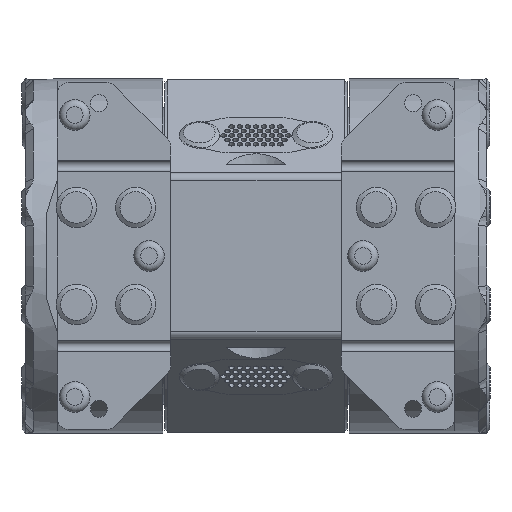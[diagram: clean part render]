
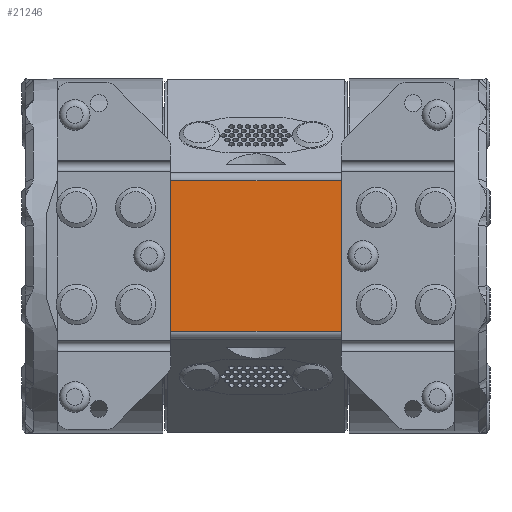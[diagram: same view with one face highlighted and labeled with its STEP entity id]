
A CAD part, front view. The second image highlights one B-rep face of the part: STEP entity #21246.
In plain terms, the highlighted planar face has unit normal (0, -1, 0).
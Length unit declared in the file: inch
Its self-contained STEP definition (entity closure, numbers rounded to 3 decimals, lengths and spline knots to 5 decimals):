
#30 = CARTESIAN_POINT ( 'NONE',  ( 0.66, -6.156, 1.748 ) ) ;
#55 = CARTESIAN_POINT ( 'NONE',  ( 1.98, -6.156, 1.748 ) ) ;
#59 = CARTESIAN_POINT ( 'NONE',  ( 0., -6.156, 1.748 ) ) ;
#114 = CARTESIAN_POINT ( 'NONE',  ( 1.32, -6.156, 1.748 ) ) ;
#2218 = EDGE_LOOP ( 'NONE', ( #28966, #29202, #28963, #3557, #28971, #29204 ) ) ;
#2964 = CARTESIAN_POINT ( 'NONE',  ( 0., -6.156, 1.748 ) ) ;
#2986 = CARTESIAN_POINT ( 'NONE',  ( -0.66, -6.156, 1.748 ) ) ;
#3005 = CARTESIAN_POINT ( 'NONE',  ( 1.98, -6.156, 2.645 ) ) ;
#3066 = CARTESIAN_POINT ( 'NONE',  ( -1.32, -6.156, 1.748 ) ) ;
#3070 = DIRECTION ( 'NONE',  ( 0., 0., 1. ) ) ;
#3140 = CARTESIAN_POINT ( 'NONE',  ( -1.98, -6.156, 1.748 ) ) ;
#3557 = ORIENTED_EDGE ( 'NONE', *, *, #19528, .T. ) ;
#5008 = VERTEX_POINT ( 'NONE', #15527 ) ;
#5024 = VERTEX_POINT ( 'NONE', #15519 ) ;
#5046 = VERTEX_POINT ( 'NONE', #15520 ) ;
#5047 = VERTEX_POINT ( 'NONE', #15404 ) ;
#5050 = VERTEX_POINT ( 'NONE', #15413 ) ;
#5053 = VERTEX_POINT ( 'NONE', #15415 ) ;
#5553 = B_SPLINE_CURVE_WITH_KNOTS ( 'NONE', 3,
 ( #59, #30, #114, #55 ),
 .UNSPECIFIED., .F., .F.,
 ( 4, 4 ),
 ( 0., 0.91328 ),
 .UNSPECIFIED. ) ;
#5557 = B_SPLINE_CURVE_WITH_KNOTS ( 'NONE', 3,
 ( #2964, #2986, #3066, #3140 ),
 .UNSPECIFIED., .F., .F.,
 ( 4, 4 ),
 ( 0., 0.91328 ),
 .UNSPECIFIED. ) ;
#5558 = B_SPLINE_CURVE_WITH_KNOTS ( 'NONE', 3,
 ( #24227, #24123, #24124, #24186 ),
 .UNSPECIFIED., .F., .F.,
 ( 4, 4 ),
 ( 0., 0.91328 ),
 .UNSPECIFIED. ) ;
#5563 = B_SPLINE_CURVE_WITH_KNOTS ( 'NONE', 3,
 ( #21635, #21740, #21738, #21736 ),
 .UNSPECIFIED., .F., .F.,
 ( 4, 4 ),
 ( 0., 0.91328 ),
 .UNSPECIFIED. ) ;
#5933 = AXIS2_PLACEMENT_3D ( 'NONE', #8660, #8661, #8662 ) ;
#8651 = PLANE ( 'NONE',  #5933 ) ;
#8660 = CARTESIAN_POINT ( 'NONE',  ( 4.605, -6.156, 1.935 ) ) ;
#8661 = DIRECTION ( 'NONE',  ( 0., 1., 0. ) ) ;
#8662 = DIRECTION ( 'NONE',  ( 0., 0., -1. ) ) ;
#12062 = CARTESIAN_POINT ( 'NONE',  ( -1.98, -6.156, -2.645 ) ) ;
#12095 = DIRECTION ( 'NONE',  ( 0., 0., -1. ) ) ;
#15404 = CARTESIAN_POINT ( 'NONE',  ( -1.98, -6.156, 1.748 ) ) ;
#15413 = CARTESIAN_POINT ( 'NONE',  ( -1.98, -6.156, -1.748 ) ) ;
#15415 = CARTESIAN_POINT ( 'NONE',  ( 0., -6.156, -1.748 ) ) ;
#15519 = CARTESIAN_POINT ( 'NONE',  ( 1.98, -6.156, -1.748 ) ) ;
#15520 = CARTESIAN_POINT ( 'NONE',  ( 0., -6.156, 1.748 ) ) ;
#15527 = CARTESIAN_POINT ( 'NONE',  ( 1.98, -6.156, 1.748 ) ) ;
#15962 = FACE_OUTER_BOUND ( 'NONE', #2218, .T. ) ;
#19334 = EDGE_CURVE ( 'NONE', #5046, #5008, #5553, .T. ) ;
#19507 = EDGE_CURVE ( 'NONE', #5046, #5047, #5557, .T. ) ;
#19509 = EDGE_CURVE ( 'NONE', #5024, #5008, #29451, .T. ) ;
#19528 = EDGE_CURVE ( 'NONE', #5053, #5024, #5558, .T. ) ;
#19731 = EDGE_CURVE ( 'NONE', #5053, #5050, #5563, .T. ) ;
#19899 = EDGE_CURVE ( 'NONE', #5047, #5050, #30002, .T. ) ;
#21246 = ADVANCED_FACE ( 'NONE', ( #15962 ), #8651, .F. ) ;
#21635 = CARTESIAN_POINT ( 'NONE',  ( 0., -6.156, -1.748 ) ) ;
#21736 = CARTESIAN_POINT ( 'NONE',  ( -1.98, -6.156, -1.748 ) ) ;
#21738 = CARTESIAN_POINT ( 'NONE',  ( -1.32, -6.156, -1.748 ) ) ;
#21740 = CARTESIAN_POINT ( 'NONE',  ( -0.66, -6.156, -1.748 ) ) ;
#24123 = CARTESIAN_POINT ( 'NONE',  ( 0.66, -6.156, -1.748 ) ) ;
#24124 = CARTESIAN_POINT ( 'NONE',  ( 1.32, -6.156, -1.748 ) ) ;
#24186 = CARTESIAN_POINT ( 'NONE',  ( 1.98, -6.156, -1.748 ) ) ;
#24227 = CARTESIAN_POINT ( 'NONE',  ( 0., -6.156, -1.748 ) ) ;
#28963 = ORIENTED_EDGE ( 'NONE', *, *, #19731, .F. ) ;
#28966 = ORIENTED_EDGE ( 'NONE', *, *, #19507, .T. ) ;
#28971 = ORIENTED_EDGE ( 'NONE', *, *, #19509, .T. ) ;
#29202 = ORIENTED_EDGE ( 'NONE', *, *, #19899, .T. ) ;
#29204 = ORIENTED_EDGE ( 'NONE', *, *, #19334, .F. ) ;
#29451 = LINE ( 'NONE', #3005, #29453 ) ;
#29453 = VECTOR ( 'NONE', #3070, 39.37008 ) ;
#30002 = LINE ( 'NONE', #12062, #30007 ) ;
#30007 = VECTOR ( 'NONE', #12095, 39.37008 ) ;
